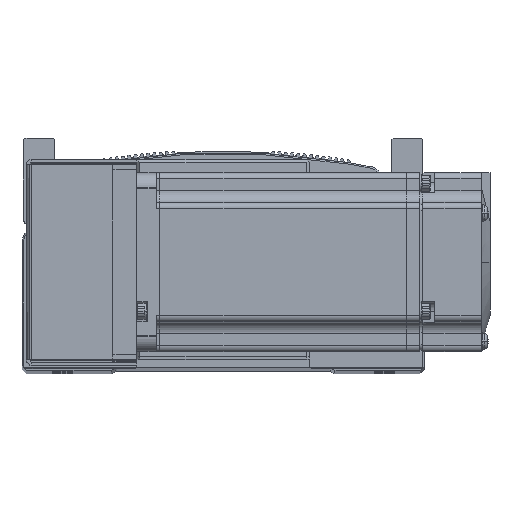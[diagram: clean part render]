
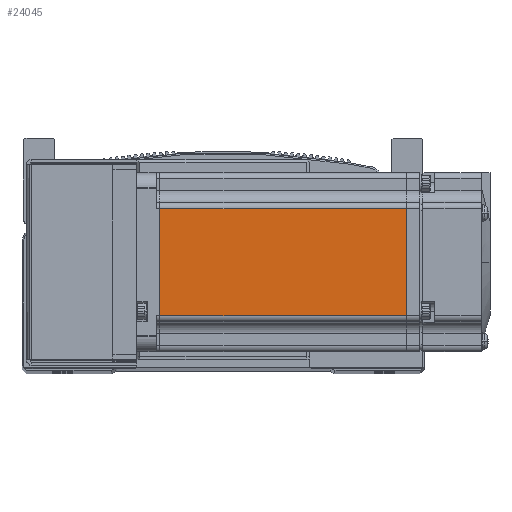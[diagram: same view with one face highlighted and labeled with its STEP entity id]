
A CAD part, top view. The second image highlights one B-rep face of the part: STEP entity #24045.
In plain terms, the highlighted planar face has unit normal (0, 0, 1) as drawn and (0, 0, -1) by its records, which use the part's own axes.
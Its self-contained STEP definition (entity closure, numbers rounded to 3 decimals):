
#6323 = EDGE_CURVE ( 'NONE', #43657, #43631, #32676, .T. ) ;
#6387 = EDGE_CURVE ( 'NONE', #43634, #43754, #32777, .T. ) ;
#6391 = EDGE_CURVE ( 'NONE', #43631, #43634, #32790, .T. ) ;
#6410 = EDGE_CURVE ( 'NONE', #43754, #43657, #32826, .T. ) ;
#9218 = CARTESIAN_POINT ( 'NONE',  ( -6.5, -18., -30. ) ) ;
#9229 = DIRECTION ( 'NONE',  ( -1., 0., 0. ) ) ;
#18784 = AXIS2_PLACEMENT_3D ( 'NONE', #46247, #46264, #46226 ) ;
#20936 = FACE_OUTER_BOUND ( 'NONE', #67055, .T. ) ;
#24045 = ADVANCED_FACE ( 'NONE', ( #20936 ), #46235, .T. ) ;
#27719 = CARTESIAN_POINT ( 'NONE',  ( -7.75, -18., -30. ) ) ;
#27788 = CARTESIAN_POINT ( 'NONE',  ( -7.75, 18., -30. ) ) ;
#29423 = CARTESIAN_POINT ( 'NONE',  ( -90.45, -18., -30. ) ) ;
#29466 = CARTESIAN_POINT ( 'NONE',  ( -90.45, 18., -30. ) ) ;
#32676 = LINE ( 'NONE', #9218, #32680 ) ;
#32680 = VECTOR ( 'NONE', #9229, 1000. ) ;
#32766 = VECTOR ( 'NONE', #80607, 1000. ) ;
#32777 = LINE ( 'NONE', #80604, #32766 ) ;
#32790 = LINE ( 'NONE', #80629, #32791 ) ;
#32791 = VECTOR ( 'NONE', #80630, 1000. ) ;
#32826 = LINE ( 'NONE', #81397, #32852 ) ;
#32852 = VECTOR ( 'NONE', #81389, 1000. ) ;
#40099 = ORIENTED_EDGE ( 'NONE', *, *, #6410, .T. ) ;
#40136 = ORIENTED_EDGE ( 'NONE', *, *, #6387, .T. ) ;
#40169 = ORIENTED_EDGE ( 'NONE', *, *, #6323, .T. ) ;
#40186 = ORIENTED_EDGE ( 'NONE', *, *, #6391, .T. ) ;
#43631 = VERTEX_POINT ( 'NONE', #29423 ) ;
#43634 = VERTEX_POINT ( 'NONE', #29466 ) ;
#43657 = VERTEX_POINT ( 'NONE', #27719 ) ;
#43754 = VERTEX_POINT ( 'NONE', #27788 ) ;
#46226 = DIRECTION ( 'NONE',  ( -1., 0., 0. ) ) ;
#46235 = PLANE ( 'NONE',  #18784 ) ;
#46247 = CARTESIAN_POINT ( 'NONE',  ( -6.5, 25., -30. ) ) ;
#46264 = DIRECTION ( 'NONE',  ( 0., 0., -1. ) ) ;
#67055 = EDGE_LOOP ( 'NONE', ( #40099, #40169, #40186, #40136 ) ) ;
#80604 = CARTESIAN_POINT ( 'NONE',  ( -6.5, 18., -30. ) ) ;
#80607 = DIRECTION ( 'NONE',  ( 1., 0., 0. ) ) ;
#80629 = CARTESIAN_POINT ( 'NONE',  ( -90.45, 25., -30. ) ) ;
#80630 = DIRECTION ( 'NONE',  ( 0., 1., 0. ) ) ;
#81389 = DIRECTION ( 'NONE',  ( 0., -1., 0. ) ) ;
#81397 = CARTESIAN_POINT ( 'NONE',  ( -7.75, 25., -30. ) ) ;
